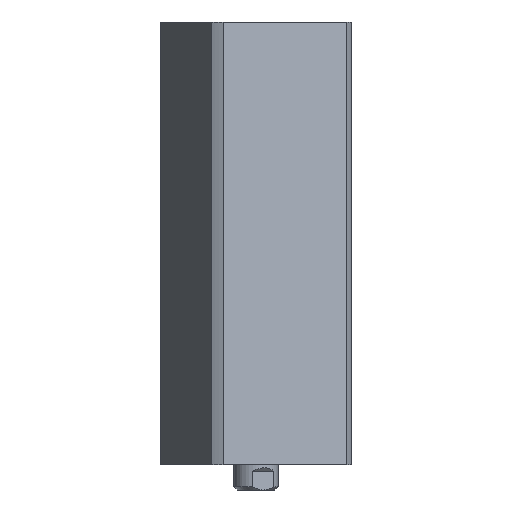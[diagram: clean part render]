
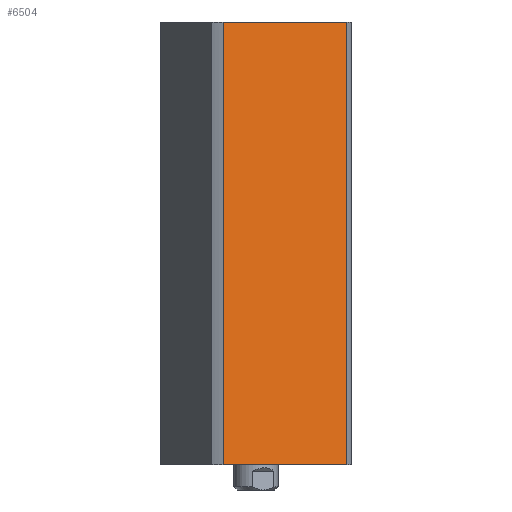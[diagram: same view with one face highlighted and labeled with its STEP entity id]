
A CAD part, front view. The second image highlights one B-rep face of the part: STEP entity #6504.
In plain terms, the highlighted planar face has unit normal (0.383, -0.924, 0) as drawn and (1, 0, 0) by its records, which use the part's own axes.
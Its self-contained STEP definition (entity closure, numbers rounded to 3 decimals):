
#18 = CARTESIAN_POINT ( 'NONE',  ( 24., 21.166, -160. ) ) ;
#92 = VERTEX_POINT ( 'NONE', #964 ) ;
#302 = LINE ( 'NONE', #5770, #1754 ) ;
#335 = EDGE_CURVE ( 'NONE', #6289, #3483, #5807, .T. ) ;
#603 = EDGE_CURVE ( 'NONE', #6289, #1895, #302, .T. ) ;
#870 = EDGE_CURVE ( 'NONE', #92, #1895, #1179, .T. ) ;
#964 = CARTESIAN_POINT ( 'NONE',  ( 24., 21.166, 140. ) ) ;
#1066 = FACE_OUTER_BOUND ( 'NONE', #6168, .T. ) ;
#1179 = LINE ( 'NONE', #18, #4255 ) ;
#1754 = VECTOR ( 'NONE', #5317, 1000. ) ;
#1836 = ORIENTED_EDGE ( 'NONE', *, *, #4448, .F. ) ;
#1885 = CARTESIAN_POINT ( 'NONE',  ( 24., -21.166, 0. ) ) ;
#1895 = VERTEX_POINT ( 'NONE', #5350 ) ;
#2086 = LINE ( 'NONE', #3868, #4981 ) ;
#2186 = DIRECTION ( 'NONE',  ( -1., 0., 0. ) ) ;
#3483 = VERTEX_POINT ( 'NONE', #5773 ) ;
#3868 = CARTESIAN_POINT ( 'NONE',  ( 24., 24., 140. ) ) ;
#4159 = ORIENTED_EDGE ( 'NONE', *, *, #335, .F. ) ;
#4255 = VECTOR ( 'NONE', #4957, 1000. ) ;
#4448 = EDGE_CURVE ( 'NONE', #3483, #92, #2086, .T. ) ;
#4957 = DIRECTION ( 'NONE',  ( 0., 0., -1. ) ) ;
#4981 = VECTOR ( 'NONE', #6361, 1000. ) ;
#5317 = DIRECTION ( 'NONE',  ( 0., 1., 0. ) ) ;
#5350 = CARTESIAN_POINT ( 'NONE',  ( 24., 21.166, 0. ) ) ;
#5463 = DIRECTION ( 'NONE',  ( 0., 0., 1. ) ) ;
#5770 = CARTESIAN_POINT ( 'NONE',  ( 24., 24., 0. ) ) ;
#5773 = CARTESIAN_POINT ( 'NONE',  ( 24., -21.166, 140. ) ) ;
#5807 = LINE ( 'NONE', #5971, #7285 ) ;
#5890 = PLANE ( 'NONE',  #6927 ) ;
#5971 = CARTESIAN_POINT ( 'NONE',  ( 24., -21.166, -160. ) ) ;
#6168 = EDGE_LOOP ( 'NONE', ( #4159, #7678, #6379, #1836 ) ) ;
#6289 = VERTEX_POINT ( 'NONE', #1885 ) ;
#6361 = DIRECTION ( 'NONE',  ( 0., 1., 0. ) ) ;
#6379 = ORIENTED_EDGE ( 'NONE', *, *, #870, .F. ) ;
#6504 = ADVANCED_FACE ( 'NONE', ( #1066 ), #5890, .F. ) ;
#6507 = DIRECTION ( 'NONE',  ( 0., -1., 0. ) ) ;
#6927 = AXIS2_PLACEMENT_3D ( 'NONE', #7027, #2186, #6507 ) ;
#7027 = CARTESIAN_POINT ( 'NONE',  ( 24., 24., 140. ) ) ;
#7285 = VECTOR ( 'NONE', #5463, 1000. ) ;
#7678 = ORIENTED_EDGE ( 'NONE', *, *, #603, .T. ) ;
